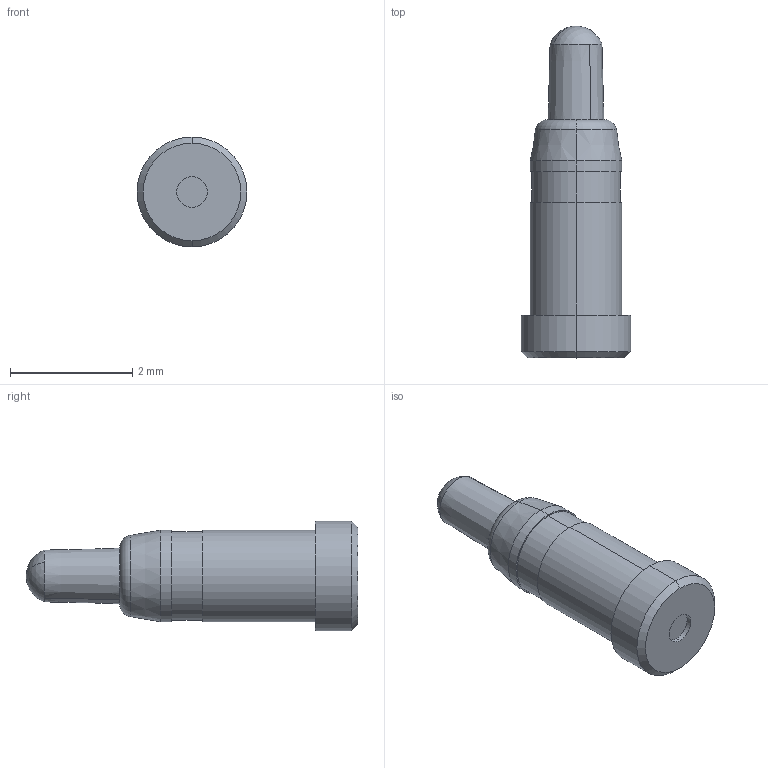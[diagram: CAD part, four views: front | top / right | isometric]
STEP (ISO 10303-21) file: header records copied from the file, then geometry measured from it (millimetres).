
FILE_DESCRIPTION((''),'2;1');
FILE_NAME('POGO_PIN__W___ANY_ASM','2008-06-30T',('GRA'),(''),'PRO/ENGINEER BY PARAMETRIC TECHNOLOGY CORPORATION, 2006170','PRO/ENGINEER BY PARAMETRIC TECHNOLOGY CORPORATION, 2006170','');
FILE_SCHEMA(('CONFIG_CONTROL_DESIGN'));
Length unit declared in the file: millimetre
Products named in the file (5): PAD__W___ANY_PRT; SPRING__W___ANY_PRT; SOLDER__W___ANY_PRT; PIN__W___ANY_PRT; POGO_PIN__W___ANY_ASM
Assembly tree (4 placements, depth 2):
  POGO_PIN__W___ANY_ASM
    PAD__W___ANY_PRT
    SPRING__W___ANY_PRT
    SOLDER__W___ANY_PRT
    PIN__W___ANY_PRT
Bounding box: 1.8 x 5.44 x 1.8 mm (x, y, z)
Volume: 5.4 mm3; surface area: 56.9 mm2
Topology: 4 solids, 4 shells, 55 faces, 106 edges, 63 vertices
Faces by surface type: cylinder 20, cone 16, plane 11, torus 4, bspline 2, sphere 2
Entity records: 19979 total; most frequent: CARTESIAN_POINT 18697, DIRECTION 288, ORIENTED_EDGE 212, AXIS2_PLACEMENT_3D 126, EDGE_CURVE 106, CIRCLE 64, VERTEX_POINT 63, EDGE_LOOP 61
